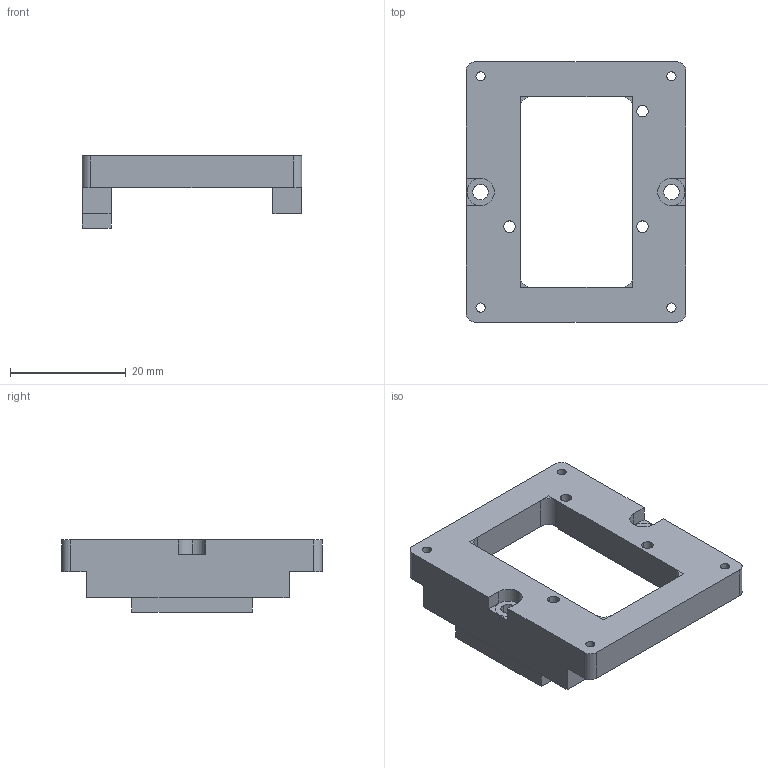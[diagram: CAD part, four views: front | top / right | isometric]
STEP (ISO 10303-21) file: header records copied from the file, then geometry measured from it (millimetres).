
FILE_DESCRIPTION(/* description */ ('(C) Elphel, Inc. 2014. Licensed under CERN OHL v.1.1 or later, see http://ohwr.org/cernohl'),/* implementation_level */ '2;1');
FILE_NAME(/* name */ '0353-23-28.stp',/* time_stamp */ '2014-10-21T20:03:19-06:00',/* author */ (''),/* organization */ ('Elphel, Inc'),/* preprocessor_version */ 'ST-DEVELOPER v14',/* originating_system */ 'VariCAD 2014-1.06; kernel version (20130303)',/* authorisation */ '');
FILE_SCHEMA (('AUTOMOTIVE_DESIGN'));
Length unit declared in the file: millimetre
Products named in the file (2): 0353-23-28
Assembly tree (1 placements, depth 2):
  0353-23-28
    0353-23-28
Bounding box: 38 x 45 x 12.5 mm (x, y, z)
Volume: 7372.3 mm3; surface area: 4824 mm2
Topology: 1 solids, 1 shells, 84 faces, 220 edges, 142 vertices
Faces by surface type: plane 46, cylinder 38
Entity records: 2686 total; most frequent: DIRECTION 476, CARTESIAN_POINT 450, ORIENTED_EDGE 440, EDGE_CURVE 220, AXIS2_PLACEMENT_3D 168, VERTEX_POINT 142, LINE 140, VECTOR 140
